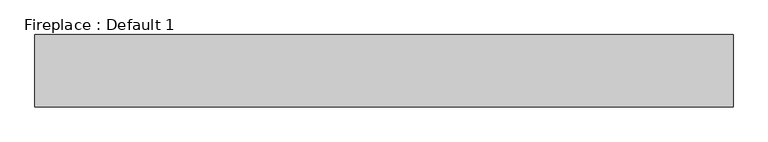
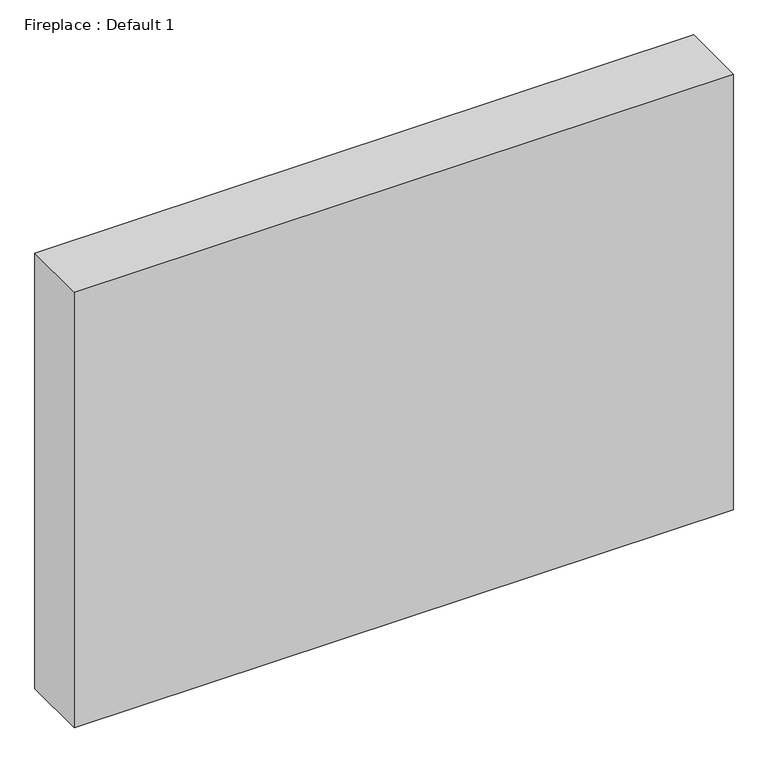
"""IFC4 building model written with IfcOpenShell, lengths in millimetres: proxy geometry, Fireplace : Default 1."""

from ifc_helpers import new_model, si_unit, origin, origin_with_axes, place, context, project, spatial, polyline, outline, extrude, source, transform, mapped, element, save


def fireplace_default_1_89c34899(model_context):
    return source(origin(), model_context, "Body", "SweptSolid", [
        extrude(outline(polyline([(981.075, -100.0), (981.075, -303.2), (-981.075, -303.2), (-981.075, -100.0), (981.075, -100.0)])), origin_with_axes(), (0.0, 0.0, 1.0), 1371.6),
    ])


if __name__ == "__main__":
    model = new_model("IFC4")
    model_context = context("Model", 3, world=origin())
    ifc_project = project(units=[si_unit("LENGTHUNIT", "METRE", prefix="MILLI")], contexts=[model_context])
    site = spatial("IfcSite", under=ifc_project)
    building = spatial("IfcBuilding", under=site)
    placement = place(None, origin())
    fireplace_default_1_shape = fireplace_default_1_89c34899(model_context)
    element("IfcBuildingElementProxy", 1, Name="Fireplace : Default 1", ObjectType="Fireplace : Default 1", at=placement, inside=building, context=model_context, shape_type="MappedRepresentation", body=[
        mapped(fireplace_default_1_shape, transform((0.0, 0.0, 0.0), x_axis=(1.0, 0.0, 0.0), y_axis=(0.0, 1.0, 0.0), z_axis=(0.0, 0.0, 1.0))),
    ])
    save(model, "model.ifc")
